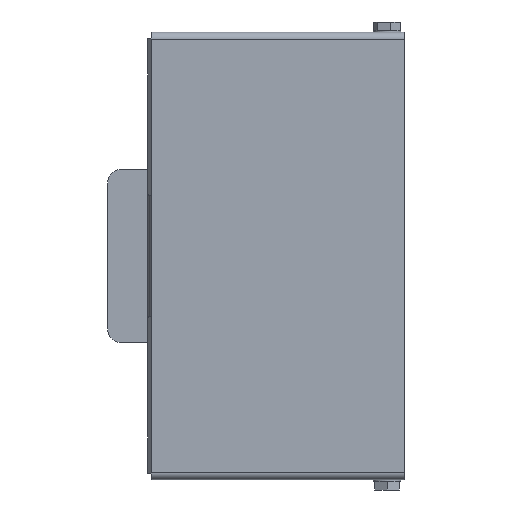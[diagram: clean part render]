
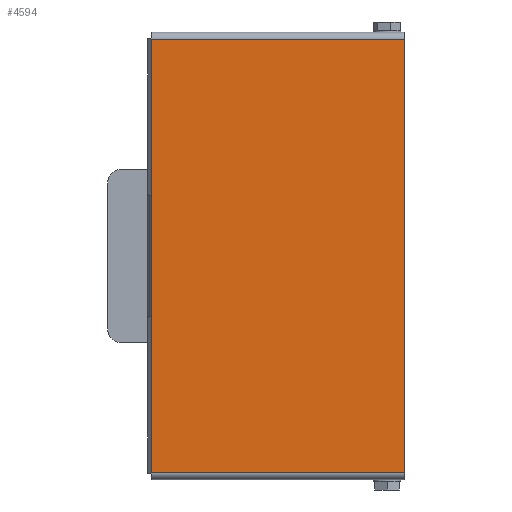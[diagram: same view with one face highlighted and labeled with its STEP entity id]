
A CAD part, left-side view. The second image highlights one B-rep face of the part: STEP entity #4594.
In plain terms, the highlighted planar face has unit normal (-1, 0, 0).
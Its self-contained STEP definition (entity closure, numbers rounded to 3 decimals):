
#3330 = EDGE_LOOP ( 'NONE', ( #4679, #4528, #4624, #4612 ) ) ;
#3988 = EDGE_CURVE ( 'NONE', #3991, #3993, #9292, .T. ) ;
#3991 = VERTEX_POINT ( 'NONE', #9288 ) ;
#3993 = VERTEX_POINT ( 'NONE', #9344 ) ;
#4252 = DIRECTION ( 'NONE',  ( 0., 0., -1. ) ) ;
#4254 = VECTOR ( 'NONE', #4252, 1000. ) ;
#4255 = CARTESIAN_POINT ( 'NONE',  ( -1., 0., 126. ) ) ;
#4257 = LINE ( 'NONE', #4255, #4254 ) ;
#4262 = DIRECTION ( 'NONE',  ( 0., 0., 1. ) ) ;
#4263 = DIRECTION ( 'NONE',  ( -1., 0., 0. ) ) ;
#4264 = CARTESIAN_POINT ( 'NONE',  ( -1., 73., 126. ) ) ;
#4265 = AXIS2_PLACEMENT_3D ( 'NONE', #4264, #4263, #4262 ) ;
#4266 = PLANE ( 'NONE',  #4265 ) ;
#4267 = FACE_OUTER_BOUND ( 'NONE', #3330, .T. ) ;
#4301 = DIRECTION ( 'NONE',  ( 0., 0., -1. ) ) ;
#4302 = VECTOR ( 'NONE', #4301, 1000. ) ;
#4303 = CARTESIAN_POINT ( 'NONE',  ( -1., 73., 126. ) ) ;
#4304 = LINE ( 'NONE', #4303, #4302 ) ;
#4378 = CARTESIAN_POINT ( 'NONE',  ( -1., 0., 126. ) ) ;
#4465 = CARTESIAN_POINT ( 'NONE',  ( -1., 73., 126. ) ) ;
#4467 = DIRECTION ( 'NONE',  ( 0., -1., 0. ) ) ;
#4468 = VECTOR ( 'NONE', #4467, 1000. ) ;
#4469 = CARTESIAN_POINT ( 'NONE',  ( -1., 73., 126. ) ) ;
#4470 = LINE ( 'NONE', #4469, #4468 ) ;
#4528 = ORIENTED_EDGE ( 'NONE', *, *, #4784, .F. ) ;
#4594 = ADVANCED_FACE ( 'NONE', ( #4267 ), #4266, .T. ) ;
#4601 = EDGE_CURVE ( 'NONE', #4681, #3993, #4257, .T. ) ;
#4612 = ORIENTED_EDGE ( 'NONE', *, *, #3988, .T. ) ;
#4624 = ORIENTED_EDGE ( 'NONE', *, *, #4627, .T. ) ;
#4627 = EDGE_CURVE ( 'NONE', #4786, #3991, #4304, .T. ) ;
#4679 = ORIENTED_EDGE ( 'NONE', *, *, #4601, .F. ) ;
#4681 = VERTEX_POINT ( 'NONE', #4378 ) ;
#4784 = EDGE_CURVE ( 'NONE', #4786, #4681, #4470, .T. ) ;
#4786 = VERTEX_POINT ( 'NONE', #4465 ) ;
#9288 = CARTESIAN_POINT ( 'NONE',  ( -1., 73., 1. ) ) ;
#9289 = DIRECTION ( 'NONE',  ( 0., -1., 0. ) ) ;
#9290 = VECTOR ( 'NONE', #9289, 1000. ) ;
#9291 = CARTESIAN_POINT ( 'NONE',  ( -1., 73., 1. ) ) ;
#9292 = LINE ( 'NONE', #9291, #9290 ) ;
#9344 = CARTESIAN_POINT ( 'NONE',  ( -1., 0., 1. ) ) ;
